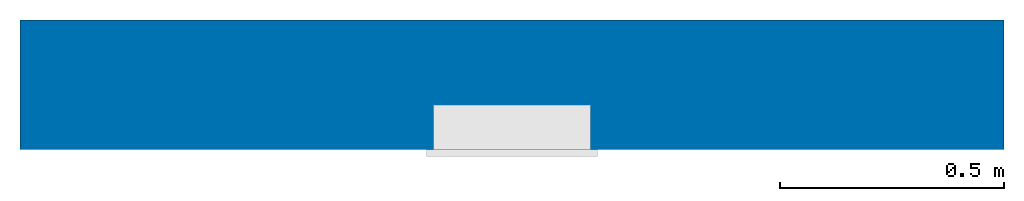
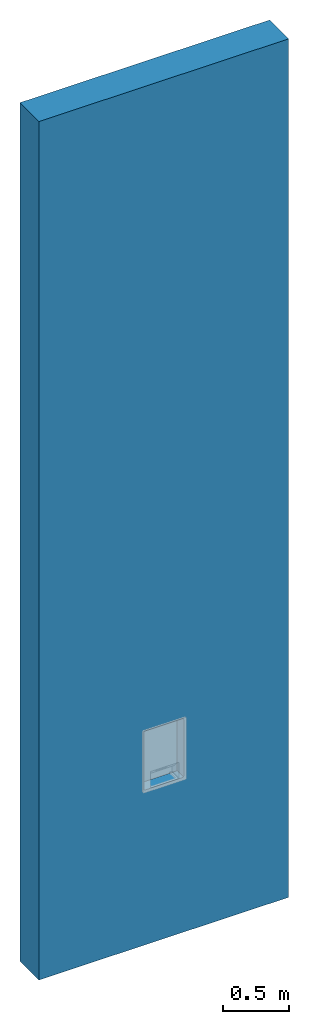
# One storey, part 1 of 2: 1 wall, 1 opening.
"""IFC2X3 building model written with IfcOpenShell, lengths in millimetres."""

from ifc_helpers import new_model, entity, si_unit, converted_unit, derived_unit, direction, frame, frame_2d, origin, place, context, subcontext, project, spatial, polyline, circle_curve, parameter, trimmed, segment, composite_curve, rectangle, outline, extrude, material, layer, layer_set, layer_usage, type_object, element, save


model = new_model("IFC2X3")

# Units and contexts
model_context = context("Model", 3, precision=0.01, world=origin(), true_north=direction((6.12303176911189e-17, 1.0)))
context_of_model = context(None, 3, precision=0.01, world=origin(), true_north=direction((6.12303176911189e-17, 1.0)))
body_context = subcontext(model_context, "Body", "Model", "MODEL_VIEW")
ifc_project = project(units=[si_unit("LENGTHUNIT", "METRE", prefix="MILLI"), si_unit("AREAUNIT", "SQUARE_METRE"), si_unit("VOLUMEUNIT", "CUBIC_METRE"), converted_unit("PLANEANGLEUNIT", "DEGREE", entity("IfcRatioMeasure", 0.0174532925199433), si_unit("PLANEANGLEUNIT", "RADIAN"), dimensions=[0, 0, 0, 0, 0, 0, 0]), si_unit("MASSUNIT", "GRAM", prefix="KILO"), si_unit("TIMEUNIT", "SECOND"), si_unit("FREQUENCYUNIT", "HERTZ"), si_unit("THERMODYNAMICTEMPERATUREUNIT", "DEGREE_CELSIUS"), derived_unit("THERMALTRANSMITTANCEUNIT", [(si_unit("MASSUNIT", "GRAM", prefix="KILO"), 1), (si_unit("THERMODYNAMICTEMPERATUREUNIT", "KELVIN"), -1), (si_unit("TIMEUNIT", "SECOND"), -3)]), derived_unit("VOLUMETRICFLOWRATEUNIT", [(si_unit("LENGTHUNIT", "METRE"), 3), (si_unit("TIMEUNIT", "SECOND"), -1)]), si_unit("ELECTRICCURRENTUNIT", "AMPERE"), si_unit("ELECTRICVOLTAGEUNIT", "VOLT"), si_unit("POWERUNIT", "WATT"), si_unit("FORCEUNIT", "NEWTON", prefix="KILO"), si_unit("ILLUMINANCEUNIT", "LUX"), si_unit("LUMINOUSFLUXUNIT", "LUMEN"), si_unit("LUMINOUSINTENSITYUNIT", "CANDELA"), si_unit("PRESSUREUNIT", "PASCAL")], contexts=[model_context, context_of_model])

# Site, building, storey
site_placement = place(None, origin())
site = spatial("IfcSite", under=ifc_project, at=site_placement, Name="Default", CompositionType="ELEMENT")
building_placement = place(site_placement, origin())
building = spatial("IfcBuilding", under=site, at=building_placement, CompositionType="ELEMENT")
storey_placement = place(building_placement, origin())
storey = spatial("IfcBuildingStorey", under=building, at=storey_placement, Name="Level 0", CompositionType="ELEMENT", Elevation=0.0)

# Wall, opening
ifc_material_1 = material(Name="Brick, Common")
ifc_layer_1 = layer(ifc_material_1, 102.5)
ifc_material_2 = material(Name="Fiberglass Batt")
ifc_layer_2 = layer(ifc_material_2, 75.0)
ifc_material_3 = material(Name="Concrete Masonry Units _Low Density")
ifc_layer_3 = layer(ifc_material_3, 100.0)
ifc_material_4 = material(Name="Plaster")
ifc_layer_4 = layer(ifc_material_4, 12.5)
ifc_layer_set = layer_set([ifc_layer_1, ifc_layer_2, ifc_layer_3, ifc_layer_4], Name="Basic Wall:Wall-Ext_102Bwk-75Ins-100LBlk-12P")
ifc_layer_usage = layer_usage(ifc_layer_set, "AXIS2", "NEGATIVE", 145.0)
wall_type = type_object("IfcWallType", Name="Basic Wall:Wall-Ext_102Bwk-75Ins-100LBlk-12P", PredefinedType="STANDARD", material=ifc_layer_set)
wall_placement = place(storey_placement, frame((-5334.05975115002, -14.8227788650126, 0.0)))
wall = element("IfcWallStandardCase", 1, at=wall_placement, inside=storey, type_object=wall_type, material=ifc_layer_usage, Name="Basic Wall:Wall-Ext_102Bwk-75Ins-100LBlk-12P", ObjectType="Basic Wall:Wall-Ext_102Bwk-75Ins-100LBlk-12P", context=body_context, shape_type="SweptSolid", body=[
    extrude(rectangle(XDim=2200.0, YDim=290.0, at=frame_2d((1100.0, 0.0), x_axis=(-1.0, 0.0))), origin(), (0.0, 0.0, 1.0), 8000.0),
])
opening_placement = place(wall_placement, frame((922.404727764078, -160.0, 1441.21897641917)))
element("IfcOpeningElement", 2, at=opening_placement, cuts=wall, Name="Basic Wall:Wall-Ext_102Bwk-75Ins-100LBlk-12P", ObjectType="Recess", context=body_context, shape_type="SweptSolid", body=[
    extrude(outline(composite_curve([segment(trimmed(circle_curve(frame_2d((166.0, -264.499999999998), x_axis=(1.0, 0.0)), 10.0), [parameter(270.0)], [parameter(0.0)], True, "PARAMETER"), True, "CONTINUOUS"), segment(polyline([(176.0, -264.499999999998), (176.0, 264.500000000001)]), True, "CONTINUOUS"), segment(trimmed(circle_curve(frame_2d((166.0, 264.500000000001), x_axis=(1.0, 0.0)), 10.0), [parameter(2.03555499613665e-13)], [parameter(89.9999999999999)], True, "PARAMETER"), True, "CONTINUOUS"), segment(polyline([(166.0, 274.500000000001), (-166.0, 274.499999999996)]), True, "CONTINUOUS"), segment(trimmed(circle_curve(frame_2d((-166.0, 264.499999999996), x_axis=(1.0, 0.0)), 10.0), [parameter(90.0000000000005)], [parameter(180.0)], True, "PARAMETER"), True, "CONTINUOUS"), segment(polyline([(-176.0, 264.499999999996), (-176.0, -264.499999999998)]), True, "CONTINUOUS"), segment(trimmed(circle_curve(frame_2d((-166.0, -264.499999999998), x_axis=(1.0, 0.0)), 10.0), [parameter(180.000000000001)], [parameter(270.0)], True, "PARAMETER"), True, "CONTINUOUS"), segment(polyline([(-166.0, -274.499999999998), (166.0, -274.499999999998)]), True, "CONTINUOUS")], self_intersect=False)), frame((177.595272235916, 0.0, 276.095272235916), z_axis=(0.0, 1.0, 0.0), x_axis=(1.0, 0.0, 0.0)), (0.0, 0.0, 1.0), 114.999999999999),
])

save(model, "model.ifc")
